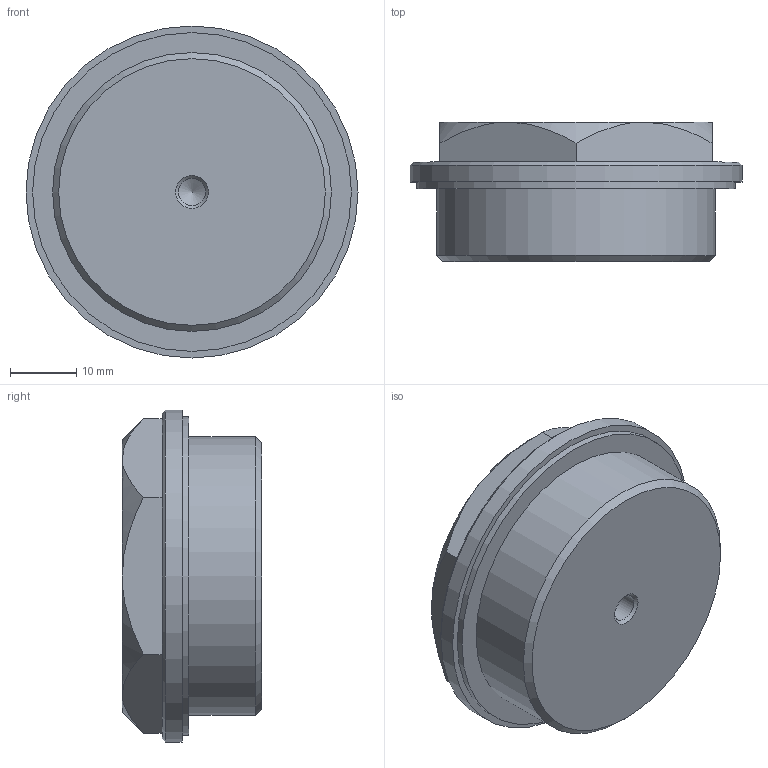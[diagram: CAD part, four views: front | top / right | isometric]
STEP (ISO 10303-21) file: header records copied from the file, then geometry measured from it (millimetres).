
FILE_DESCRIPTION( ( 'STEP AP203' ), '1' );
FILE_NAME( 'C:/Temp/Ganter_Step_05_03_2020/data/3_5/gn742/gn742_1/Threaded plug GN 742-50-M42x1,5-ASS-1.stp', '2020-03-12T13:39:00', ( 'License CC BY-ND 4.0' ), ( 'CADENAS' ), ' ', 'PARTsolutions', ' ' );
FILE_SCHEMA( ( 'CONFIG_CONTROL_DESIGN' ) );
Length unit declared in the file: millimetre
Products named in the file (1): _Threaded plug GN 742-50-M42x1,5-ASS-1
Bounding box: 50 x 21 x 50 mm (x, y, z)
Volume: 31244.8 mm3; surface area: 6846.2 mm2
Topology: 1 solids, 1 shells, 52 faces, 125 edges, 80 vertices
Faces by surface type: plane 38, cone 10, cylinder 4
Full cylindrical faces by diameter (mm): 4.134 x1, 42 x1, 48 x1, 50 x1
Entity records: 1553 total; most frequent: CARTESIAN_POINT 341, ORIENTED_EDGE 232, DIRECTION 227, EDGE_CURVE 116, LINE 87, VECTOR 87, VERTEX_POINT 80, AXIS2_PLACEMENT_3D 70
